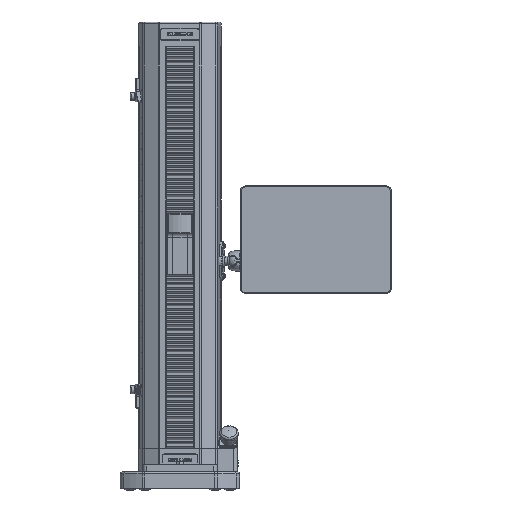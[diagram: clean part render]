
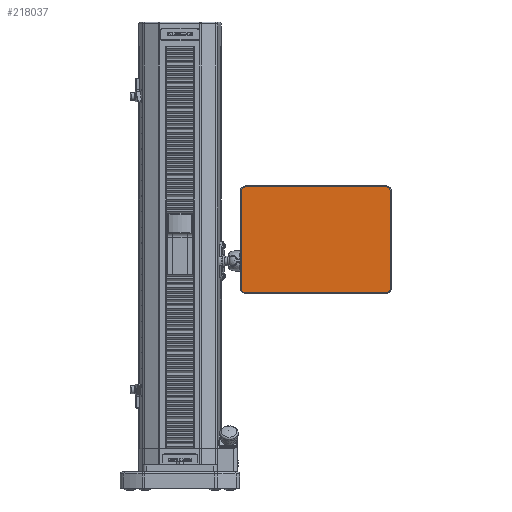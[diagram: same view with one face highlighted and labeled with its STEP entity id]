
A CAD part, left-side view. The second image highlights one B-rep face of the part: STEP entity #218037.
In plain terms, the highlighted planar face has unit normal (-1, 0, 0).
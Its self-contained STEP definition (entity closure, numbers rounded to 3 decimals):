
#1752=PLANE('',#229984);
#12422=FACE_OUTER_BOUND('',#24158,.T.);
#24158=EDGE_LOOP('',(#152693,#152694,#152695,#152696,#152697,#152698,#152699,
#152700));
#36628=LINE('',#303150,#65804);
#36629=LINE('',#303157,#65805);
#36630=LINE('',#303167,#65806);
#36631=LINE('',#303171,#65807);
#65804=VECTOR('',#245083,1.);
#65805=VECTOR('',#245092,1.);
#65806=VECTOR('',#245107,1.);
#65807=VECTOR('',#245112,1.);
#94895=CIRCLE('',#229966,0.313);
#94901=CIRCLE('',#229975,0.313);
#94903=CIRCLE('',#229978,0.313);
#94905=CIRCLE('',#229983,0.313);
#97769=VERTEX_POINT('',#303143);
#97770=VERTEX_POINT('',#303145);
#97771=VERTEX_POINT('',#303149);
#97772=VERTEX_POINT('',#303153);
#97773=VERTEX_POINT('',#303155);
#97774=VERTEX_POINT('',#303159);
#97775=VERTEX_POINT('',#303163);
#97776=VERTEX_POINT('',#303169);
#119548=EDGE_CURVE('',#97769,#97770,#94895,.T.);
#119550=EDGE_CURVE('',#97770,#97771,#36628,.T.);
#119554=EDGE_CURVE('',#97773,#97772,#36629,.T.);
#119556=EDGE_CURVE('',#97772,#97774,#94901,.T.);
#119558=EDGE_CURVE('',#97775,#97773,#94903,.T.);
#119559=EDGE_CURVE('',#97774,#97769,#36630,.T.);
#119561=EDGE_CURVE('',#97776,#97775,#36631,.T.);
#119562=EDGE_CURVE('',#97771,#97776,#94905,.T.);
#152693=ORIENTED_EDGE('',*,*,#119548,.F.);
#152694=ORIENTED_EDGE('',*,*,#119559,.F.);
#152695=ORIENTED_EDGE('',*,*,#119556,.F.);
#152696=ORIENTED_EDGE('',*,*,#119554,.F.);
#152697=ORIENTED_EDGE('',*,*,#119558,.F.);
#152698=ORIENTED_EDGE('',*,*,#119561,.F.);
#152699=ORIENTED_EDGE('',*,*,#119562,.F.);
#152700=ORIENTED_EDGE('',*,*,#119550,.F.);
#218037=ADVANCED_FACE('',(#12422),#1752,.T.);
#229966=AXIS2_PLACEMENT_3D('',#303146,#245077,#245078);
#229975=AXIS2_PLACEMENT_3D('',#303161,#245097,#245098);
#229978=AXIS2_PLACEMENT_3D('',#303165,#245103,#245104);
#229983=AXIS2_PLACEMENT_3D('',#303173,#245115,#245116);
#229984=AXIS2_PLACEMENT_3D('',#303174,#245117,#245118);
#245077=DIRECTION('center_axis',(1.,0.,0.));
#245078=DIRECTION('ref_axis',(0.,-0.707,0.707));
#245083=DIRECTION('',(0.,0.,-1.));
#245092=DIRECTION('',(0.,0.,1.));
#245097=DIRECTION('center_axis',(1.,0.,0.));
#245098=DIRECTION('ref_axis',(0.,0.707,0.707));
#245103=DIRECTION('center_axis',(1.,0.,0.));
#245104=DIRECTION('ref_axis',(0.,0.707,-0.707));
#245107=DIRECTION('',(0.,-1.,0.));
#245112=DIRECTION('',(0.,1.,0.));
#245115=DIRECTION('center_axis',(1.,0.,0.));
#245116=DIRECTION('ref_axis',(0.,-0.707,-0.707));
#245117=DIRECTION('center_axis',(-1.,0.,0.));
#245118=DIRECTION('ref_axis',(0.,0.,
-1.));
#303143=CARTESIAN_POINT('',(40.295,50.306,-1.418));
#303145=CARTESIAN_POINT('',(40.295,49.993,-1.73));
#303146=CARTESIAN_POINT('Origin',(40.295,50.306,-1.73));
#303149=CARTESIAN_POINT('',(40.295,49.993,-7.86));
#303150=CARTESIAN_POINT('',(40.295,49.993,-4.795));
#303153=CARTESIAN_POINT('',(40.295,59.525,-1.73));
#303155=CARTESIAN_POINT('',(40.295,59.525,-7.86));
#303157=CARTESIAN_POINT('',(40.295,59.525,-4.795));
#303159=CARTESIAN_POINT('',(40.295,59.213,-1.418));
#303161=CARTESIAN_POINT('Origin',(40.295,59.213,-1.73));
#303163=CARTESIAN_POINT('',(40.295,59.213,-8.173));
#303165=CARTESIAN_POINT('Origin',(40.295,59.213,-7.86));
#303167=CARTESIAN_POINT('',(40.295,54.759,-1.418));
#303169=CARTESIAN_POINT('',(40.295,50.306,-8.173));
#303171=CARTESIAN_POINT('',(40.295,54.759,-8.173));
#303173=CARTESIAN_POINT('Origin',(40.295,50.306,-7.86));
#303174=CARTESIAN_POINT('Origin',(40.295,54.759,-4.795));
